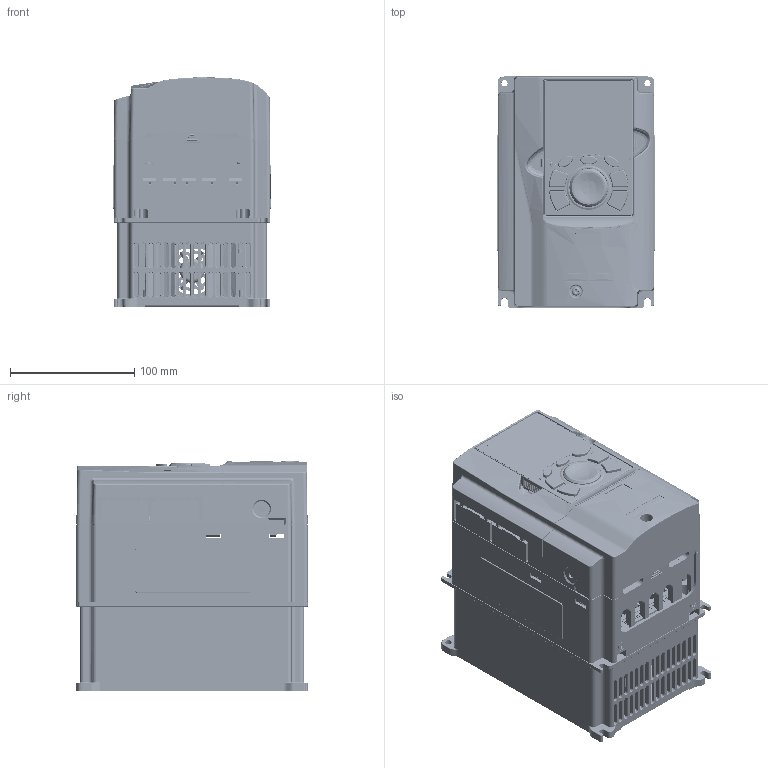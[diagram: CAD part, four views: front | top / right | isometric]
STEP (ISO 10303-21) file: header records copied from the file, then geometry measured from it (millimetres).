
FILE_DESCRIPTION(('HD2-4.5A-23'),'2;1');
FILE_NAME('HD2-4.5A-23_ASM','2019-10-21T',('IMO'),(''),'PRO/ENGINEER BY PARAMETRIC TECHNOLOGY CORPORATION, 2010100','PRO/ENGINEER BY PARAMETRIC TECHNOLOGY CORPORATION, 2010100','');
FILE_SCHEMA(('CONFIG_CONTROL_DESIGN'));
Products named in the file (42): 80740120; 80740045; 80880095; 80740044; 80740181; 80740182; 80880486; 80740180; 80810118; 80810117; 80810117SY; 80780072; 80310229; 80740163; 80740162; 80880456; 80880456SY; 40810091_ASM; 80740164; 80740164SY; 80880455; KEY-LCD01-ZY-350_ASM; BODY; TERMINAL-1; TERMINAL-2; TB1000-00_SCREW_8; TB1000-00_WADIAN_6; TB1000-00_ASMSCREW_ASM_6_ASM; SCREW_ASM; CHE200_1G5_TERMINAL_ASM; 61008-00023; 80390038; 30001-00035_BAIRUI; 80740019; HD2-4.5A-23-ES_ASM; GB9074_4_M4X10; GB9074_4_M4X12; GB9074_4_M4X16; GB9074_4_M3X8; PM_M4X10_DCR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
Assembly tree (82 placements, depth 6):
  HD2-4.5A-23_ASM
    80740120
    80740045
    80880095
    80740044
    80740181
    80740182
    80880486
    80740180
    80810118
    80810117
    80810117SY
    80780072
    80310229
    KEY-LCD01-ZY-350_ASM
      80740163
      40810091_ASM
        80740162
        80880456
        80880456SY
      80740164
      80740164SY
      80880455
    HD2-4.5A-23-ES_ASM
      CHE200_1G5_TERMINAL_ASM
        BODY
        TERMINAL-1  x5
        TERMINAL-2  x4
        SCREW_ASM  x9
          TB1000-00_ASMSCREW_ASM_6_ASM
            TB1000-00_SCREW_8
            TB1000-00_WADIAN_6
      61008-00023  x2
      80390038
      30001-00035_BAIRUI
      80740019  x2
    HD2-4.5A-23-FS_ASM
      GB9074_4_M4X10  x14
      GB9074_4_M4X12  x4
      GB9074_4_M4X16  x4
      GB9074_4_M3X8  x6
      PM_M4X10_DCR
Bounding box: 127.6 x 186 x 184.43 mm (x, y, z)
Volume: 891890.9 mm3; surface area: 952228.6 mm2
Topology: 80 solids, 86 shells, 15758 faces, 43210 edges, 27818 vertices
Faces by surface type: plane 9628, cylinder 3411, extrusion 741, torus 708, bspline 567, cone 543, sphere 160
Entity records: 468268 total; most frequent: CARTESIAN_POINT 125119, ORIENTED_EDGE 74148, DIRECTION 66643, EDGE_CURVE 37132, VECTOR 27327, LINE 26586, VERTEX_POINT 24037, AXIS2_PLACEMENT_3D 19658
